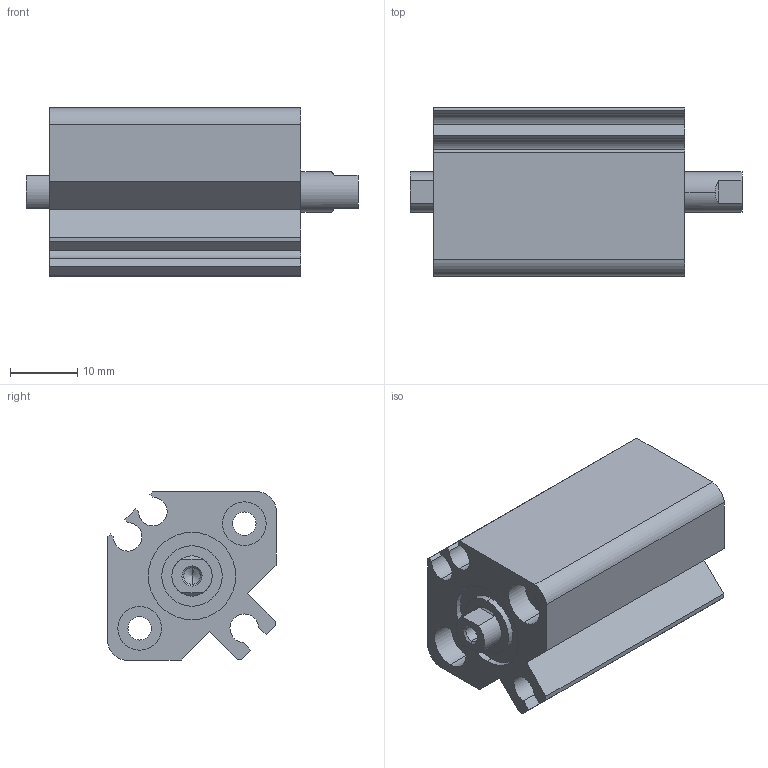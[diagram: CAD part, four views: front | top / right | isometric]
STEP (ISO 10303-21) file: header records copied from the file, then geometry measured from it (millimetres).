
FILE_DESCRIPTION (( 'STEP AP203' ), '1' );
FILE_NAME ('CCMB12-5F-P.STEP', '2020-08-05T11:00:51', ( '' ), ( '' ), 'SwSTEP 2.0', 'SolidWorks 2019', '' );
FILE_SCHEMA (( 'CONFIG_CONTROL_DESIGN' ));
Length unit declared in the file: millimetre
Products named in the file (1): CCMB12-5F-P
Bounding box: 49.4 x 25 x 25 mm (x, y, z)
Volume: 17317.3 mm3; surface area: 9445.5 mm2
Topology: 2 solids, 2 shells, 109 faces, 261 edges, 168 vertices
Faces by surface type: cylinder 50, plane 47, cone 12
Entity records: 3246 total; most frequent: DIRECTION 577, CARTESIAN_POINT 559, ORIENTED_EDGE 514, EDGE_CURVE 257, AXIS2_PLACEMENT_3D 218, VERTEX_POINT 168, VECTOR 141, LINE 141
